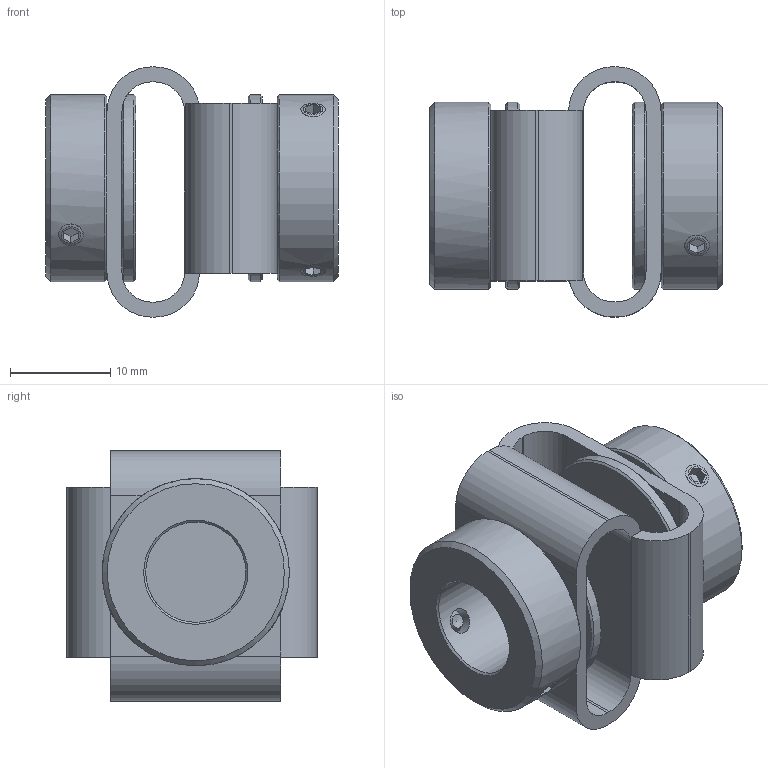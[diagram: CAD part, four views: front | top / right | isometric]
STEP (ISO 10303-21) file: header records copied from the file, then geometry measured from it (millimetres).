
FILE_DESCRIPTION( ( 'STEP AP203' ), '1' );
FILE_NAME( 'p:/temp/worker_172/temp/exporttempdir_776_124_EMrB6/format_2/E61436.stp', '2021-01-22T09:09:56', ( 'License CC BY-ND 4.0' ), ( 'CADENAS' ), ' ', 'PARTsolutions', ' ' );
FILE_SCHEMA( ( 'CONFIG_CONTROL_DESIGN' ) );
Length unit declared in the file: millimetre
Products named in the file (1): _E61436
Bounding box: 29.2 x 25 x 25 mm (x, y, z)
Volume: 5516 mm3; surface area: 4800.8 mm2
Topology: 1 solids, 1 shells, 148 faces, 356 edges, 218 vertices
Faces by surface type: plane 78, cylinder 42, cone 28
Full cylindrical faces by diameter (mm): 2.46 x4, 6 x1, 10 x1, 18.7 x4
Entity records: 4284 total; most frequent: CARTESIAN_POINT 1001, DIRECTION 686, ORIENTED_EDGE 612, EDGE_CURVE 306, AXIS2_PLACEMENT_3D 261, VERTEX_POINT 204, EDGE_LOOP 196, LINE 164
